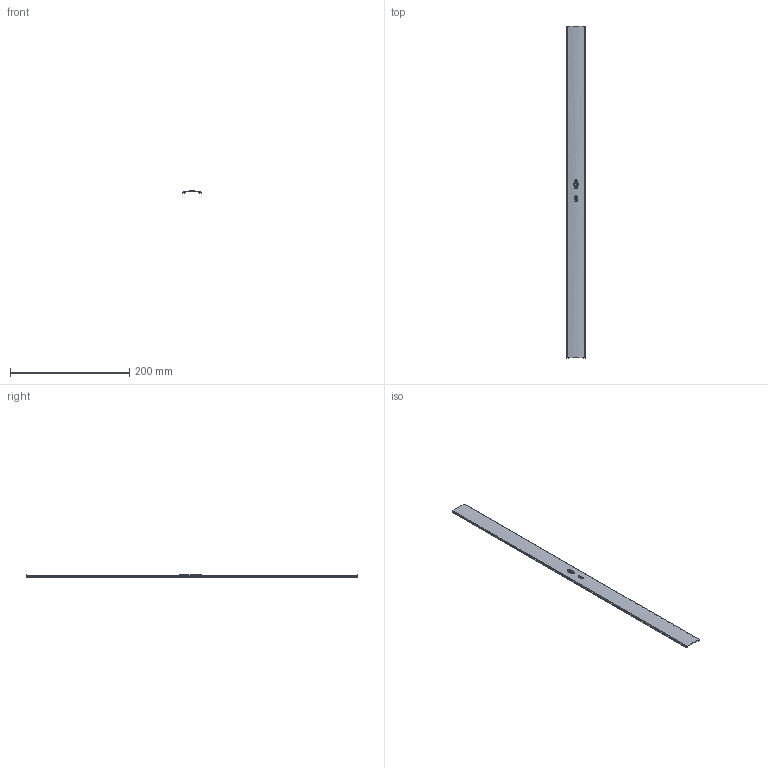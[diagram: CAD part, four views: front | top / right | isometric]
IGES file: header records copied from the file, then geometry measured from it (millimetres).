
Global section: file name: C:\CoreTechnologie\3D-in\01VYQ0BY09.igs; native system: CT CoreTechnologie 3D Evolution; preprocessor: 2006; author: assmuth; date: 1160126.131413; units: metre
Bounding box: 30.9 x 557.6 x 3.75 mm (x, y, z)
Surface area: 39115.6 mm2 (no closed solid volume)
Topology: 0 solids, 0 shells, 105 faces, 542 edges, 542 vertices
Faces by surface type: bspline 105
